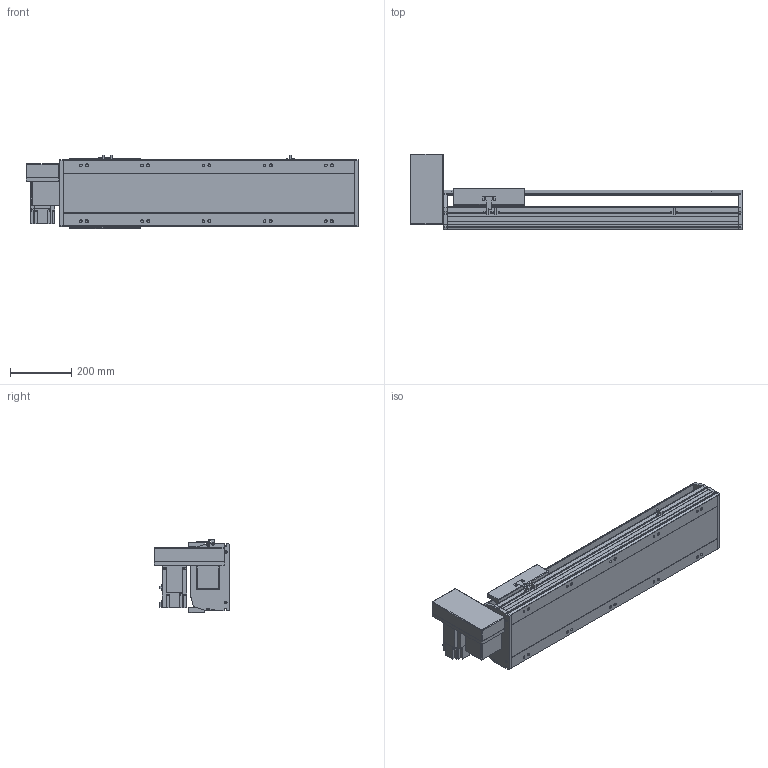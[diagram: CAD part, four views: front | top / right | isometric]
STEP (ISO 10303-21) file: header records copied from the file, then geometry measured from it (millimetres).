
FILE_DESCRIPTION(/* description */ ('STEP AP214'),/* implementation_level */ '2;1');
FILE_NAME(/* name */ 'PBS220-P40-S600-RU-T75-C1-N(0)',/* time_stamp */ '2022-06-13T02:50:24+02:00',/* author */ ('License CC BY-ND 4.0'),/* organization */ ('CADENAS'),/* preprocessor_version */ 'ST-DEVELOPER v18.102',/* originating_system */ 'PARTsolutions',/* authorisation */ ' ');
FILE_SCHEMA (('AUTOMOTIVE_DESIGN {1 0 10303 214 3 1 1}'));
Length unit declared in the file: millimetre
Products named in the file (7): PBS220-P40-S600-RU-T75-C1-N(0); PBS220_sensor; PBS220_plant; PBS220_sliser; T75-p1; PBS220T-RU_motors; PBS220-S600()_body
Assembly tree (8 placements, depth 2):
  PBS220-P40-S600-RU-T75-C1-N(0)
    PBS220_sensor  x3
    PBS220_plant
    PBS220_sliser
    T75-p1
    PBS220T-RU_motors
    PBS220-S600()_body
Bounding box: 1084 x 247 x 238.5 mm (x, y, z)
Volume: 16075578.1 mm3; surface area: 1640241.3 mm2
Topology: 8 solids, 8 shells, 878 faces, 2312 edges, 1504 vertices
Faces by surface type: plane 586, cylinder 258, cone 34
Full cylindrical faces by diameter (mm): 2.013 x4, 4.5 x14, 4.917 x4, 6 x7, 6.647 x8, 8 x10, 8.376 x10, 8.5 x10, 10 x6, 14 x10, 38 x2, 40 x1, 70 x1
Entity records: 24693 total; most frequent: CARTESIAN_POINT 4294, DIRECTION 4293, ORIENTED_EDGE 3998, EDGE_CURVE 1999, AXIS2_PLACEMENT_3D 1477, VERTEX_POINT 1368, LINE 1339, VECTOR 1339
